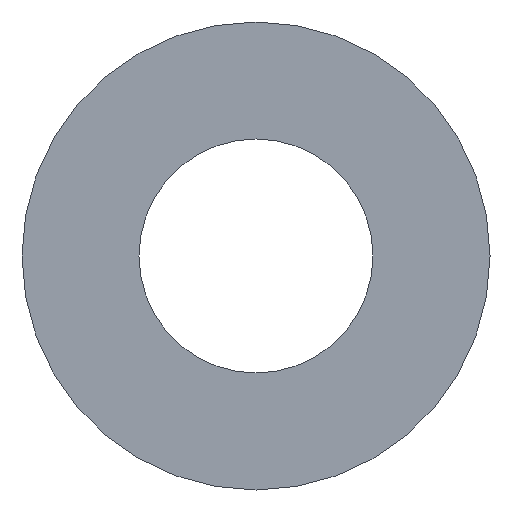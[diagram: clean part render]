
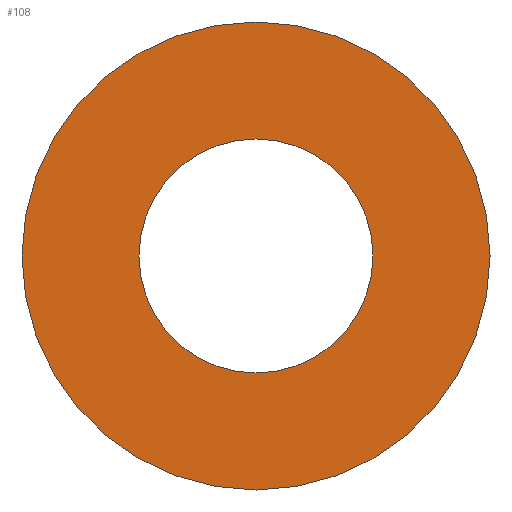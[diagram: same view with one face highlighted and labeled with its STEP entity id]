
A CAD part, front view. The second image highlights one B-rep face of the part: STEP entity #108.
In plain terms, the highlighted planar face has unit normal (0, -1, 0).
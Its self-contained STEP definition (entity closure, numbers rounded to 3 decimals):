
#11 = CARTESIAN_POINT ( 'NONE',  ( 0., -0.5, -4.5 ) ) ;
#18 = ORIENTED_EDGE ( 'NONE', *, *, #140, .T. ) ;
#43 = CARTESIAN_POINT ( 'NONE',  ( 0., -0.5, 4.5 ) ) ;
#44 = EDGE_LOOP ( 'NONE', ( #104, #296 ) ) ;
#64 = VERTEX_POINT ( 'NONE', #282 ) ;
#82 = EDGE_CURVE ( 'NONE', #64, #144, #154, .T. ) ;
#103 = DIRECTION ( 'NONE',  ( 0., 0., 1. ) ) ;
#104 = ORIENTED_EDGE ( 'NONE', *, *, #251, .F. ) ;
#106 = DIRECTION ( 'NONE',  ( 0., 1., 0. ) ) ;
#108 = ADVANCED_FACE ( 'NONE', ( #150, #224 ), #254, .F. ) ;
#111 = CARTESIAN_POINT ( 'NONE',  ( 0., -0.5, 0. ) ) ;
#140 = EDGE_CURVE ( 'NONE', #144, #64, #350, .T. ) ;
#144 = VERTEX_POINT ( 'NONE', #218 ) ;
#150 = FACE_OUTER_BOUND ( 'NONE', #44, .T. ) ;
#154 = CIRCLE ( 'NONE', #264, 2.25 ) ;
#161 = AXIS2_PLACEMENT_3D ( 'NONE', #252, #250, #246 ) ;
#185 = EDGE_CURVE ( 'NONE', #349, #333, #297, .T. ) ;
#188 = DIRECTION ( 'NONE',  ( 0., 0., 1. ) ) ;
#190 = AXIS2_PLACEMENT_3D ( 'NONE', #111, #106, #103 ) ;
#192 = DIRECTION ( 'NONE',  ( 0., 1., 0. ) ) ;
#194 = CARTESIAN_POINT ( 'NONE',  ( 0., -0.5, 0. ) ) ;
#218 = CARTESIAN_POINT ( 'NONE',  ( 0., -0.5, 2.25 ) ) ;
#220 = DIRECTION ( 'NONE',  ( 0., 0., 1. ) ) ;
#223 = DIRECTION ( 'NONE',  ( 0., 1., 0. ) ) ;
#224 = FACE_BOUND ( 'NONE', #339, .T. ) ;
#227 = CARTESIAN_POINT ( 'NONE',  ( 0., -0.5, 0. ) ) ;
#231 = AXIS2_PLACEMENT_3D ( 'NONE', #227, #223, #220 ) ;
#246 = DIRECTION ( 'NONE',  ( 0., 0., 1. ) ) ;
#250 = DIRECTION ( 'NONE',  ( 0., 1., 0. ) ) ;
#251 = EDGE_CURVE ( 'NONE', #333, #349, #284, .T. ) ;
#252 = CARTESIAN_POINT ( 'NONE',  ( 0., -0.5, 0. ) ) ;
#254 = PLANE ( 'NONE',  #161 ) ;
#255 = AXIS2_PLACEMENT_3D ( 'NONE', #194, #192, #188 ) ;
#260 = DIRECTION ( 'NONE',  ( 0., 0., 1. ) ) ;
#263 = DIRECTION ( 'NONE',  ( 0., 1., 0. ) ) ;
#264 = AXIS2_PLACEMENT_3D ( 'NONE', #266, #263, #260 ) ;
#266 = CARTESIAN_POINT ( 'NONE',  ( 0., -0.5, 0. ) ) ;
#282 = CARTESIAN_POINT ( 'NONE',  ( 0., -0.5, -2.25 ) ) ;
#284 = CIRCLE ( 'NONE', #190, 4.5 ) ;
#296 = ORIENTED_EDGE ( 'NONE', *, *, #185, .F. ) ;
#297 = CIRCLE ( 'NONE', #255, 4.5 ) ;
#312 = ORIENTED_EDGE ( 'NONE', *, *, #82, .T. ) ;
#333 = VERTEX_POINT ( 'NONE', #11 ) ;
#339 = EDGE_LOOP ( 'NONE', ( #312, #18 ) ) ;
#349 = VERTEX_POINT ( 'NONE', #43 ) ;
#350 = CIRCLE ( 'NONE', #231, 2.25 ) ;
